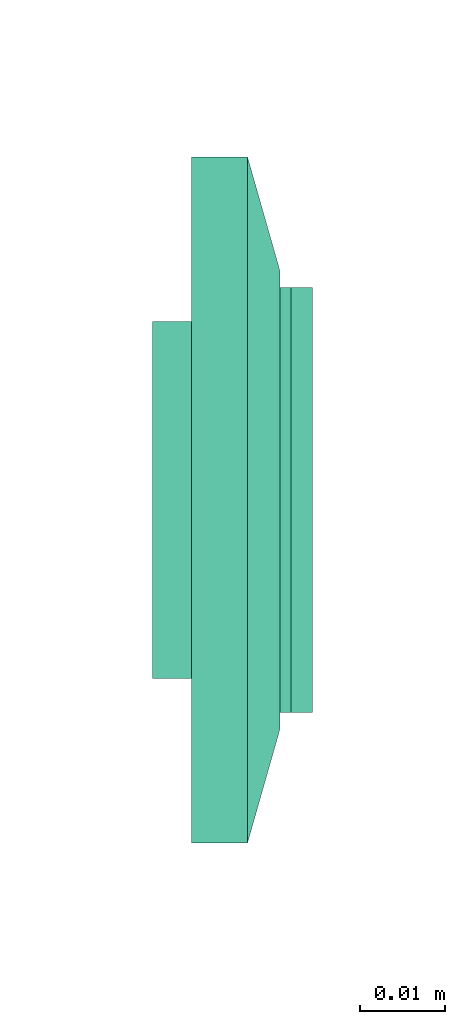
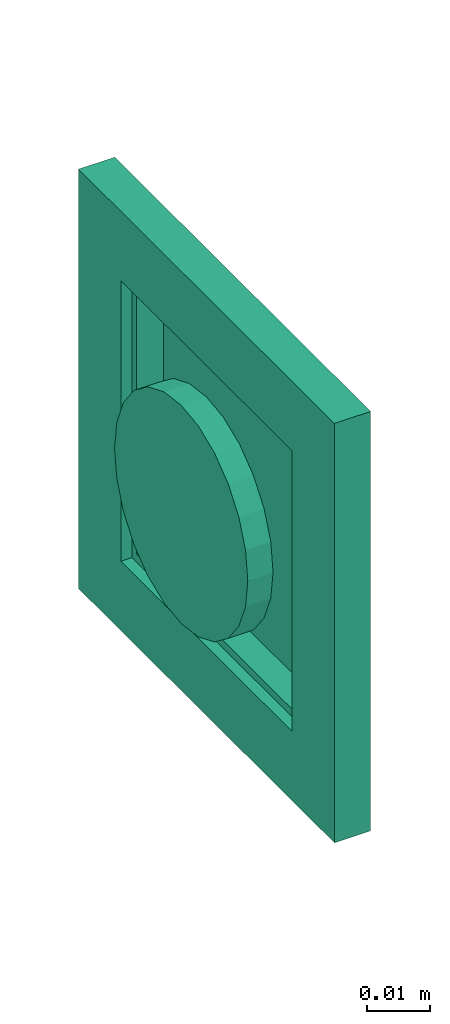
# One storey, part 72 of 153: 1 flow terminal.
"""IFC2X3 building model written with IfcOpenShell, lengths in metres."""

from ifc_helpers import new_model, entity, si_unit, converted_unit, derived_unit, direction, frame, origin, place, context, subcontext, project, spatial, faceted_brep, source, transform, mapped, type_object, type_shapes, element, save


model = new_model("IFC2X3")

# Units and contexts
model_context = context("Model", 3, precision=1e-05, world=origin(), true_north=direction((6.12303176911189e-17, 1.0)))
body_context = subcontext(model_context, "Body", "Model", "MODEL_VIEW")
ifc_project = project(units=[si_unit("LENGTHUNIT", "METRE"), si_unit("AREAUNIT", "SQUARE_METRE"), si_unit("VOLUMEUNIT", "CUBIC_METRE"), converted_unit("PLANEANGLEUNIT", "DEGREE", entity("IfcRatioMeasure", 0.0174532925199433), si_unit("PLANEANGLEUNIT", "RADIAN"), dimensions=[0, 0, 0, 0, 0, 0, 0]), si_unit("MASSUNIT", "GRAM", prefix="KILO"), derived_unit("MASSDENSITYUNIT", [(si_unit("MASSUNIT", "GRAM", prefix="KILO"), 1), (si_unit("LENGTHUNIT", "METRE"), -3)]), si_unit("TIMEUNIT", "SECOND"), si_unit("FREQUENCYUNIT", "HERTZ"), si_unit("THERMODYNAMICTEMPERATUREUNIT", "DEGREE_CELSIUS"), derived_unit("THERMALTRANSMITTANCEUNIT", [(si_unit("MASSUNIT", "GRAM", prefix="KILO"), 1), (si_unit("THERMODYNAMICTEMPERATUREUNIT", "KELVIN"), -1), (si_unit("TIMEUNIT", "SECOND"), -3)]), derived_unit("VOLUMETRICFLOWRATEUNIT", [(si_unit("LENGTHUNIT", "METRE"), 3), (si_unit("TIMEUNIT", "SECOND"), -1)]), si_unit("ELECTRICCURRENTUNIT", "AMPERE"), si_unit("ELECTRICVOLTAGEUNIT", "VOLT"), si_unit("POWERUNIT", "WATT"), si_unit("FORCEUNIT", "NEWTON"), si_unit("ILLUMINANCEUNIT", "LUX"), si_unit("LUMINOUSFLUXUNIT", "LUMEN"), si_unit("LUMINOUSINTENSITYUNIT", "CANDELA"), derived_unit("USERDEFINED", [(si_unit("MASSUNIT", "GRAM", prefix="KILO"), -1), (si_unit("LENGTHUNIT", "METRE"), -2), (si_unit("TIMEUNIT", "SECOND"), 3), (si_unit("LUMINOUSFLUXUNIT", "LUMEN"), 1)]), derived_unit("LINEARVELOCITYUNIT", [(si_unit("LENGTHUNIT", "METRE"), 1), (si_unit("TIMEUNIT", "SECOND"), -1)]), si_unit("PRESSUREUNIT", "PASCAL"), derived_unit("USERDEFINED", [(si_unit("LENGTHUNIT", "METRE"), -2), (si_unit("MASSUNIT", "GRAM", prefix="KILO"), 1), (si_unit("TIMEUNIT", "SECOND"), -2)])], contexts=[model_context])

# Site, building, storey
site_placement = place(None, origin())
site = spatial("IfcSite", under=ifc_project, at=site_placement, Name="Default", CompositionType="ELEMENT")
building_placement = place(site_placement, origin())
building = spatial("IfcBuilding", under=site, at=building_placement, CompositionType="ELEMENT")
storey_placement = place(building_placement, frame((0.0, 0.0, -4.62)))
storey = spatial("IfcBuildingStorey", under=building, at=storey_placement, Name="S02", CompositionType="ELEMENT", Elevation=-4.62)

# Flow terminal
light_fixture_type = type_object("IfcLightFixtureType", Name="VV IP21", PredefinedType="NOTDEFINED")
shared_shape = source(origin(), body_context, "Body", "Brep", [
    faceted_brep([(0.0, 0.0209999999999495, -0.00460000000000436), (0.00543519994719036, 0.02028444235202, -0.00460000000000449), (0.0105000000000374, 0.0181865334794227, -0.00460000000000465), (0.0148492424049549, 0.014849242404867, -0.00460000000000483), (0.0181865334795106, 0.0104999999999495, -0.00460000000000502), (0.0202844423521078, 0.00543519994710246, -0.00460000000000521), (0.0210000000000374, 0.0, -0.00460000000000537), (0.0202844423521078, -0.00543519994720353, -0.00460000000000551), (0.0181865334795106, -0.0105000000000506, -0.0046000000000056), (0.0148492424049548, -0.0148492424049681, -0.00460000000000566), (0.0105000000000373, -0.0181865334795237, -0.00460000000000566), (0.00543519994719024, -0.0202844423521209, -0.00460000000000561), (0.0, -0.0210000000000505, -0.00460000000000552), (-0.00543519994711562, -0.0202844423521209, -0.00460000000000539), (-0.0104999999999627, -0.0181865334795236, -0.00460000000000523), (-0.0148492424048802, -0.0148492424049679, -0.00460000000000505), (-0.0181865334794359, -0.0105000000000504, -0.00460000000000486), (-0.0202844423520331, -0.00543519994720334, -0.00460000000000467), (-0.0209999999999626, 0.0, -0.00460000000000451), (-0.020284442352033, 0.00543519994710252, -0.00460000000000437), (-0.0181865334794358, 0.0104999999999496, -0.00460000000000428), (-0.0148492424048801, 0.0148492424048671, -0.00460000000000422), (-0.0104999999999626, 0.0181865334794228, -0.00460000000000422), (-0.00543519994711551, 0.02028444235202, -0.00460000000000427), (-0.020284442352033, -0.00543519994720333, 0.0), (-0.0209999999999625, 0.0, 0.0), (-0.0181865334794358, -0.0105000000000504, 0.0), (-0.0104999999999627, -0.0181865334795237, 0.0), (-0.0148492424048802, -0.0148492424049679, 0.0), (-0.00543519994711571, -0.020284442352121, 0.0), (0.0, -0.0210000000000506, 0.0), (0.00543519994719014, -0.0202844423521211, 0.0), (0.0105000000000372, -0.018186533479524, 0.0), (0.0181865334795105, -0.0105000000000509, 0.0), (0.0148492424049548, -0.0148492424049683, 0.0), (0.0202844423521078, -0.00543519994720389, 0.0), (0.0210000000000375, 0.0, 0.0), (0.0202844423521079, 0.00543519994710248, 0.0), (0.0181865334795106, 0.0104999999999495, 0.0), (0.0105000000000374, 0.0181865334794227, 0.0), (0.0148492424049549, 0.014849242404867, 0.0), (0.00543519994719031, 0.0202844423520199, 0.0), (0.0, 0.0209999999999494, 0.0), (-0.00543519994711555, 0.0202844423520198, 0.0), (-0.0104999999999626, 0.0181865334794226, 0.0), (-0.0181865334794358, 0.0104999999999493, 0.0), (-0.0148492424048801, 0.0148492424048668, 0.0), (-0.020284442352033, 0.00543519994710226, 0.0)], [[[0, 1, 2, 3, 4, 5, 6, 7, 8, 9, 10, 11, 12, 13, 14, 15, 16, 17, 18, 19, 20, 21, 22, 23]], [[17, 24, 25, 18]], [[16, 26, 24, 17]], [[27, 28, 15, 14]], [[16, 15, 28, 26]], [[29, 27, 14, 13]], [[30, 29, 13, 12]], [[11, 31, 30, 12]], [[10, 32, 31, 11]], [[33, 34, 9, 8]], [[10, 9, 34, 32]], [[35, 33, 8, 7]], [[36, 35, 7, 6]], [[5, 37, 36, 6]], [[4, 38, 37, 5]], [[39, 40, 3, 2]], [[4, 3, 40, 38]], [[41, 39, 2, 1]], [[42, 41, 1, 0]], [[23, 43, 42, 0]], [[22, 44, 43, 23]], [[45, 46, 21, 20]], [[22, 21, 46, 44]], [[47, 45, 20, 19]], [[25, 47, 19, 18]], [[25, 24, 26, 28, 27, 29, 30, 31, 32, 34, 33, 35, 36, 37, 38, 40, 39, 41, 42, 43, 44, 46, 45, 47]]]),
    faceted_brep([(0.0270000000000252, 0.026999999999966, 0.0103999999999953), (-0.0269999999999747, 0.026999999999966, 0.0103999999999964), (-0.0269999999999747, -0.0270000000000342, 0.0103999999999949), (0.0270000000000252, -0.0270000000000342, 0.0103999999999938), (-0.0254999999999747, 0.0258096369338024, 0.0103999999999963), (0.0255000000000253, 0.0258096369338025, 0.0103999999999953), (0.0255000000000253, -0.0255000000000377, 0.0103999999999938), (-0.0254999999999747, -0.0255000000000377, 0.0103999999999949), (0.0270000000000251, 0.0269999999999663, 0.00199999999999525), (0.0270000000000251, -0.0270000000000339, 0.00199999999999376), (-0.0269999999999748, -0.0270000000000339, 0.00199999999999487), (-0.0269999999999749, 0.0269999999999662, 0.00199999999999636), (0.0255000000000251, 0.0258096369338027, 0.00199999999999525), (-0.0254999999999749, 0.0258096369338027, 0.0019999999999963), (-0.0254999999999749, -0.0255000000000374, 0.00199999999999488), (0.0255000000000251, -0.0255000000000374, 0.00199999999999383)], [[[0, 1, 2, 3], [4, 5, 6, 7]], [[8, 9, 10, 11], [12, 13, 14, 15]], [[1, 0, 8, 11]], [[2, 1, 11, 10]], [[3, 2, 10, 9]], [[0, 3, 9, 8]], [[12, 5, 4, 13]], [[13, 4, 7, 14]], [[14, 7, 6, 15]], [[5, 12, 15, 6]]]),
    faceted_brep([(0.0250000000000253, 0.0253096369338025, 0.00659999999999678), (0.0250000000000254, 0.0253096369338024, 0.0117095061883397), (0.0250000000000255, -0.0245000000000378, 0.0142232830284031), (0.0250000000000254, -0.0250000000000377, 0.0117095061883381), (0.0250000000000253, -0.0250000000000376, 0.00659999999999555), (-0.0249999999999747, 0.0253096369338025, 0.00659999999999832), (-0.0249999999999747, -0.0250000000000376, 0.00659999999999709), (-0.0249999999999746, -0.0250000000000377, 0.0117095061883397), (-0.0249999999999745, -0.0245000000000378, 0.0142232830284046), (-0.0249999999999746, 0.0253096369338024, 0.0117095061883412)], [[[0, 1, 2, 3, 4]], [[5, 6, 7, 8, 9]], [[1, 0, 5, 9]], [[2, 1, 9, 8]], [[3, 2, 8, 7]], [[4, 3, 7, 6]], [[0, 4, 6, 5]]]),
    faceted_brep([(0.027000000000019, 0.0269999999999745, 0.00659999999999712), (-0.0269999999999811, 0.0269999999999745, 0.00659999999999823), (-0.026999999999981, -0.0270000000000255, 0.00659999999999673), (0.027000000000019, -0.0270000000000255, 0.00659999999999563), (0.040350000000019, 0.0403499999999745, 0.00659999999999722), (0.040350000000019, -0.0403500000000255, 0.00659999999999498), (-0.0403499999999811, -0.0403500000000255, 0.00659999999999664), (-0.0403499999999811, 0.0403499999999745, 0.00659999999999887), (-0.026999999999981, 0.0269999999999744, 0.0103999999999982), (0.027000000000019, 0.0269999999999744, 0.0103999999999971), (-0.026999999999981, -0.0270000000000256, 0.0103999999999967), (0.027000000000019, -0.0270000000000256, 0.0103999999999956)], [[[0, 1, 2, 3], [4, 5, 6, 7]], [[4, 7, 8, 9]], [[7, 6, 10, 8]], [[6, 5, 11, 10]], [[5, 4, 9, 11]], [[0, 9, 8, 1]], [[1, 8, 10, 2]], [[2, 10, 11, 3]], [[9, 0, 3, 11]]], outer=[[False, True], [True], [True], [True], [True], [True], [True], [True], [True]]),
    faceted_brep([(0.040350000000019, 0.0403499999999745, 0.00659999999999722), (-0.0403499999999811, 0.0403499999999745, 0.00659999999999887), (-0.0403499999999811, -0.0403500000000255, 0.00659999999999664), (0.040350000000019, -0.0403500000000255, 0.00659999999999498), (-0.0269999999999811, 0.0269999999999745, 0.00659999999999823), (0.0270000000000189, 0.0269999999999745, 0.00659999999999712), (0.0270000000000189, -0.0270000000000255, 0.00659999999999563), (-0.0269999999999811, -0.0270000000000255, 0.00659999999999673), (0.0403500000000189, 0.0403499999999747, 0.0), (0.0403500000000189, -0.0403500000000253, 0.0), (-0.0403499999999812, -0.0403500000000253, 0.0), (-0.0403499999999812, 0.0403499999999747, 0.0), (0.0270000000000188, 0.0269999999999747, 0.0), (-0.0269999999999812, 0.0269999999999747, 0.0), (-0.0269999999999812, -0.0270000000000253, 0.0), (0.0270000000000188, -0.0270000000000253, 0.0)], [[[0, 1, 2, 3], [4, 5, 6, 7]], [[8, 9, 10, 11], [12, 13, 14, 15]], [[1, 0, 8, 11]], [[2, 1, 11, 10]], [[3, 2, 10, 9]], [[0, 3, 9, 8]], [[12, 5, 4, 13]], [[13, 4, 7, 14]], [[14, 7, 6, 15]], [[5, 12, 15, 6]]]),
])
type_shapes(light_fixture_type, [shared_shape])
flow_terminal_placement = place(storey_placement, frame((45.3197436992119, -188.217069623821, 1.05000000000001), z_axis=(1.0, 0.0, 0.0), x_axis=(0.0, 1.0, 0.0)))
element("IfcFlowTerminal", 1, at=flow_terminal_placement, inside=storey, type_object=light_fixture_type, Name="INT_Inter VV:VV IP21", ObjectType="INT_Inter VV:VV IP21", context=body_context, shape_type="MappedRepresentation", body=[
    mapped(shared_shape, transform((0.0, 0.0, 0.0), scale=1.0)),
])

save(model, "model.ifc")
